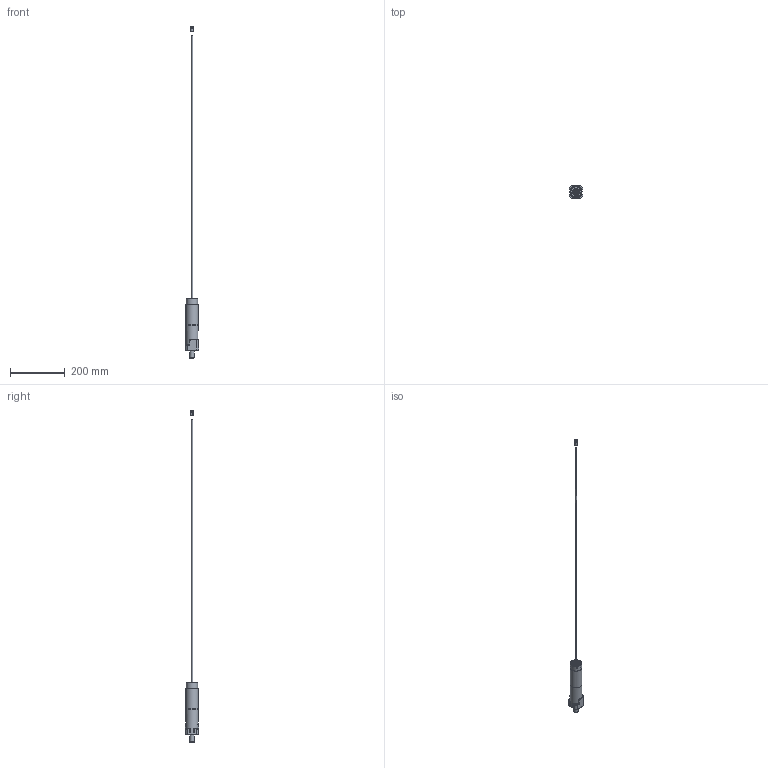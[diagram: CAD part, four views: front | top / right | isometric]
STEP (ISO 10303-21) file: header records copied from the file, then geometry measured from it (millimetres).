
FILE_DESCRIPTION(/* description */ (''),/* implementation_level */ '2;1');
FILE_NAME(/* name */ 'C:\Users\Melanie Blume\OneDrive - Kyowa Europe GmbH\Desktop\PGDs Website\PGD024-SE2-2-Stage.stp',/* time_stamp */ '2025-07-11T10:22:48+02:00',/* author */ ('Melanie Blume'),/* organization */ (''),/* preprocessor_version */ 'ST-DEVELOPER v20',/* originating_system */ 'Autodesk Inventor 2022',/* authorisation */ '');
FILE_SCHEMA (('AUTOMOTIVE_DESIGN { 1 0 10303 214 3 1 1 }'));
Length unit declared in the file: millimetre
Products named in the file (1): PGD024-SE2-2-Stage-new(Red)
Bounding box: 48 x 48 x 1216.5 mm (x, y, z)
Volume: 320577.8 mm3; surface area: 51011.3 mm2
Topology: 1 solids, 11 shells, 471 faces, 1143 edges, 681 vertices
Faces by surface type: cylinder 208, plane 106, torus 77, bspline 59, cone 13, sphere 8
Full cylindrical faces by diameter (mm): 1.2 x4, 4.2 x4, 4.4 x2, 5 x1, 6.9 x1, 7.2 x1, 7.5 x1, 10 x1, 16 x1, 20 x1, 23 x1, 42 x1, 44 x2, 44.1 x1
Entity records: 19858 total; most frequent: CARTESIAN_POINT 9242, DIRECTION 2230, ORIENTED_EDGE 2206, EDGE_CURVE 1106, AXIS2_PLACEMENT_3D 892, VERTEX_POINT 681, EDGE_LOOP 498, FACE_OUTER_BOUND 471
